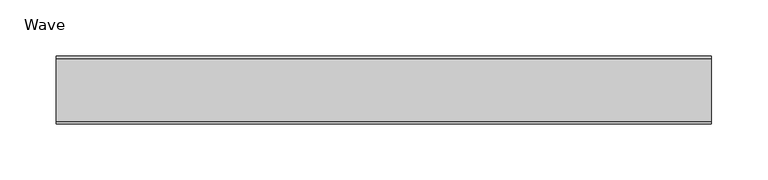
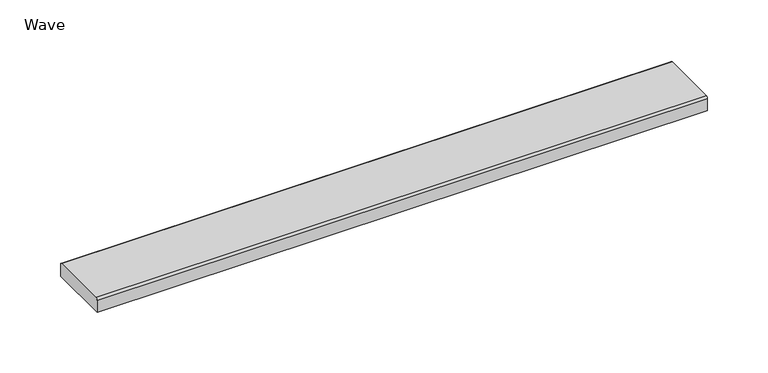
"""IFC4 building model written with IfcOpenShell, lengths in millimetres: sanitary terminal geometry, ZZZ_do not use_PF_UN_grating ShowerDrain C (INT)_ACO : Wave."""

from ifc_helpers import new_model, si_unit, point, frame, frame_2d, origin, place, context, project, spatial, polyline, circle_curve, trimmed, segment, composite_curve, outline, extrude, source, transform, mapped, element, save


def wave_fc92086e(model_context):
    return source(origin(), model_context, "Body", "SweptSolid", [
        extrude(outline(composite_curve([segment(polyline([(30.0, -14.0), (-30.0, -14.0), (-30.0, -1.977849)]), True, "CONTINUOUS"), segment(trimmed(circle_curve(frame_2d((-28.022151, -1.977849)), 1.977849), [point((-30.0, -1.977849))], [point((-28.022151, 0.0))], False, "CARTESIAN"), True, "CONTINUOUS"), segment(polyline([(-28.022151, 0.0), (28.022151, 0.0)]), True, "CONTINUOUS"), segment(trimmed(circle_curve(frame_2d((28.022151, -1.977849)), 1.977849), [point((28.022151, 0.0))], [point((30.0, -1.977849))], False, "CARTESIAN"), True, "CONTINUOUS"), segment(polyline([(30.0, -1.977849), (30.0, -14.0)]), True, "CONTINUOUS")], self_intersect=False)), frame((-290.5, 0.0, 0.0), z_axis=(1.0, 0.0, 0.0), x_axis=(0.0, 1.0, 0.0)), (0.0, 0.0, 1.0), 581.0),
    ])


if __name__ == "__main__":
    model = new_model("IFC4")
    model_context = context("Model", 3, world=origin())
    ifc_project = project(units=[si_unit("LENGTHUNIT", "METRE", prefix="MILLI")], contexts=[model_context])
    site = spatial("IfcSite", under=ifc_project)
    building = spatial("IfcBuilding", under=site)
    placement = place(None, origin())
    ifc_wave_shape = wave_fc92086e(model_context)
    element("IfcSanitaryTerminal", 1, ObjectType="ZZZ_do not use_PF_UN_grating ShowerDrain C (INT)_ACO : Wave", at=placement, inside=building, context=model_context, shape_type="MappedRepresentation", body=[
        mapped(ifc_wave_shape, transform((0.0, 0.0, 0.0), x_axis=(1.0, 0.0, 0.0), y_axis=(0.0, 1.0, 0.0), z_axis=(0.0, 0.0, 1.0))),
    ])
    save(model, "model.ifc")
